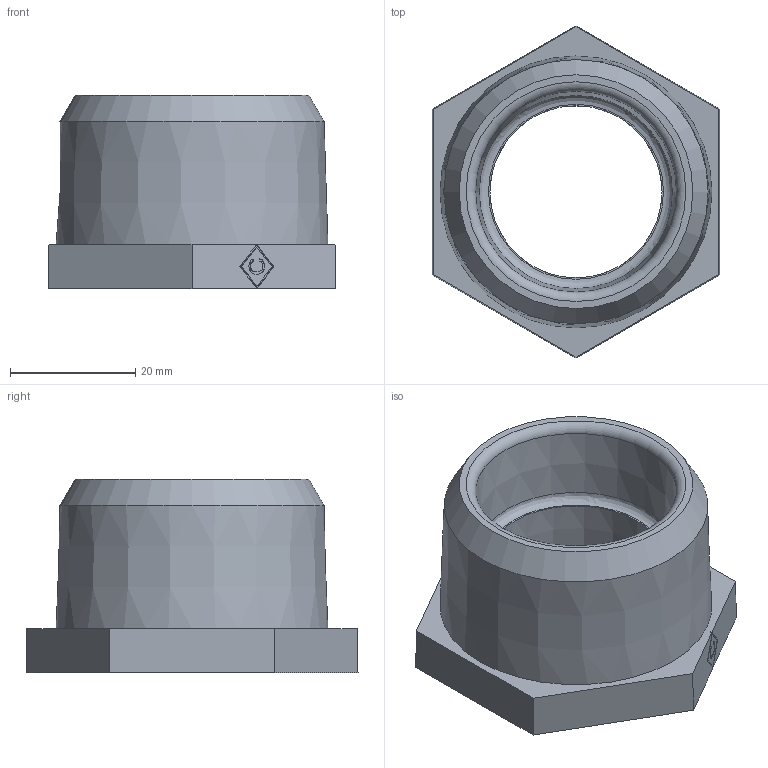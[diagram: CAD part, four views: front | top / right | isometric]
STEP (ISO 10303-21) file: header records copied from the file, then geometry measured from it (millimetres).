
FILE_DESCRIPTION((''),'2;1');
FILE_NAME('P:\Fastrack\53909_CRANE\Crane\Fig.140 Hexagon Bush\New 1.25 inch\140-1.25x1.stp','2009-09-14T11:13:31',('btaylor'),(''),'Autodesk Inventor 2008','Autodesk Inventor 2008','');
FILE_SCHEMA(('AUTOMOTIVE_DESIGN { 1 0 10303 214 1 1 1 1 }'));
Length unit declared in the file: millimetre
Products named in the file (1): 140-1.25x1.00
Bounding box: 46 x 53.12 x 31 mm (x, y, z)
Volume: 24425.8 mm3; surface area: 8949.4 mm2
Topology: 1 solids, 1 shells, 38 faces, 89 edges, 58 vertices
Faces by surface type: plane 23, bspline 9, cone 5, torus 1
Entity records: 1233 total; most frequent: CARTESIAN_POINT 395, ORIENTED_EDGE 164, DIRECTION 136, EDGE_CURVE 82, VERTEX_POINT 58, VECTOR 56, LINE 56, EDGE_LOOP 52
